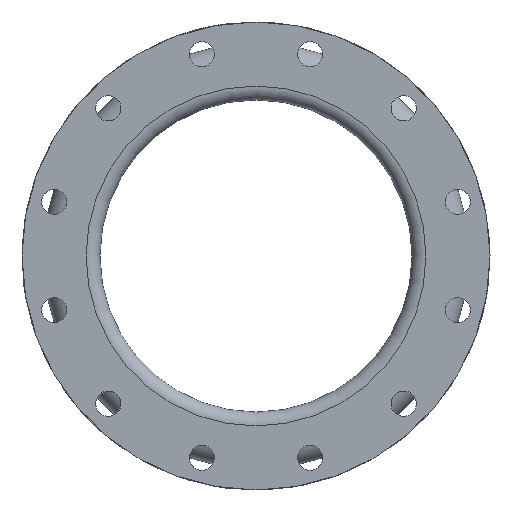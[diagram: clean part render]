
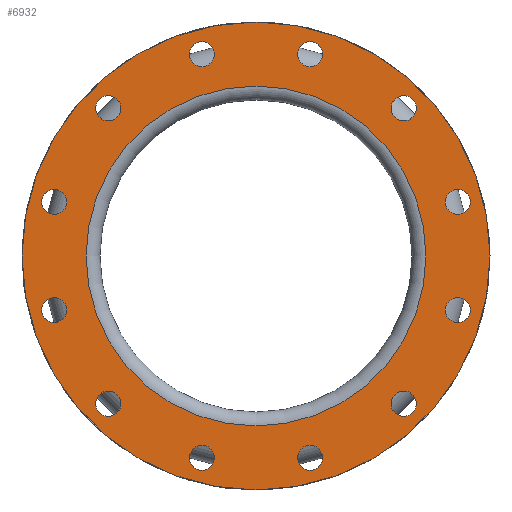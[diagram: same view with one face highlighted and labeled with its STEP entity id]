
A CAD part, left-side view. The second image highlights one B-rep face of the part: STEP entity #6932.
In plain terms, the highlighted planar face has unit normal (-1, 0, 0).
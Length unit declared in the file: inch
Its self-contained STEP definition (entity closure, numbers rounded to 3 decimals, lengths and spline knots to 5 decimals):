
#132=FACE_BOUND('',#1200,.T.);
#133=FACE_BOUND('',#1201,.T.);
#134=FACE_BOUND('',#1202,.T.);
#135=FACE_BOUND('',#1203,.T.);
#136=FACE_BOUND('',#1204,.T.);
#137=FACE_BOUND('',#1205,.T.);
#138=FACE_BOUND('',#1206,.T.);
#139=FACE_BOUND('',#1207,.T.);
#140=FACE_BOUND('',#1208,.T.);
#141=FACE_BOUND('',#1209,.T.);
#142=FACE_BOUND('',#1210,.T.);
#143=FACE_BOUND('',#1211,.T.);
#144=FACE_BOUND('',#1212,.T.);
#725=FACE_OUTER_BOUND('',#1199,.T.);
#1199=EDGE_LOOP('',(#5308));
#1200=EDGE_LOOP('',(#5309));
#1201=EDGE_LOOP('',(#5310));
#1202=EDGE_LOOP('',(#5311));
#1203=EDGE_LOOP('',(#5312));
#1204=EDGE_LOOP('',(#5313));
#1205=EDGE_LOOP('',(#5314));
#1206=EDGE_LOOP('',(#5315));
#1207=EDGE_LOOP('',(#5316));
#1208=EDGE_LOOP('',(#5317));
#1209=EDGE_LOOP('',(#5318));
#1210=EDGE_LOOP('',(#5319));
#1211=EDGE_LOOP('',(#5320));
#1212=EDGE_LOOP('',(#5321));
#2438=CIRCLE('',#7540,0.5625);
#2440=CIRCLE('',#7543,0.5625);
#2442=CIRCLE('',#7546,0.5625);
#2444=CIRCLE('',#7549,0.5625);
#2446=CIRCLE('',#7552,0.5625);
#2448=CIRCLE('',#7555,0.5625);
#2450=CIRCLE('',#7558,0.5625);
#2452=CIRCLE('',#7561,0.5625);
#2454=CIRCLE('',#7564,0.5625);
#2456=CIRCLE('',#7567,0.5625);
#2458=CIRCLE('',#7570,0.5625);
#2460=CIRCLE('',#7573,0.5625);
#2500=CIRCLE('',#7640,7.625);
#2501=CIRCLE('',#7642,10.5);
#3071=VERTEX_POINT('',#11294);
#3073=VERTEX_POINT('',#11299);
#3075=VERTEX_POINT('',#11304);
#3077=VERTEX_POINT('',#11309);
#3079=VERTEX_POINT('',#11314);
#3081=VERTEX_POINT('',#11319);
#3083=VERTEX_POINT('',#11324);
#3085=VERTEX_POINT('',#11329);
#3087=VERTEX_POINT('',#11334);
#3089=VERTEX_POINT('',#11339);
#3091=VERTEX_POINT('',#11344);
#3093=VERTEX_POINT('',#11349);
#3133=VERTEX_POINT('',#11456);
#3134=VERTEX_POINT('',#11459);
#3872=EDGE_CURVE('',#3071,#3071,#2438,.T.);
#3874=EDGE_CURVE('',#3073,#3073,#2440,.T.);
#3876=EDGE_CURVE('',#3075,#3075,#2442,.T.);
#3878=EDGE_CURVE('',#3077,#3077,#2444,.T.);
#3880=EDGE_CURVE('',#3079,#3079,#2446,.T.);
#3882=EDGE_CURVE('',#3081,#3081,#2448,.T.);
#3884=EDGE_CURVE('',#3083,#3083,#2450,.T.);
#3886=EDGE_CURVE('',#3085,#3085,#2452,.T.);
#3888=EDGE_CURVE('',#3087,#3087,#2454,.T.);
#3890=EDGE_CURVE('',#3089,#3089,#2456,.T.);
#3892=EDGE_CURVE('',#3091,#3091,#2458,.T.);
#3894=EDGE_CURVE('',#3093,#3093,#2460,.T.);
#3934=EDGE_CURVE('',#3133,#3133,#2500,.T.);
#3935=EDGE_CURVE('',#3134,#3134,#2501,.T.);
#5308=ORIENTED_EDGE('',*,*,#3935,.F.);
#5309=ORIENTED_EDGE('',*,*,#3934,.T.);
#5310=ORIENTED_EDGE('',*,*,#3872,.T.);
#5311=ORIENTED_EDGE('',*,*,#3874,.T.);
#5312=ORIENTED_EDGE('',*,*,#3876,.T.);
#5313=ORIENTED_EDGE('',*,*,#3878,.T.);
#5314=ORIENTED_EDGE('',*,*,#3880,.T.);
#5315=ORIENTED_EDGE('',*,*,#3882,.T.);
#5316=ORIENTED_EDGE('',*,*,#3884,.T.);
#5317=ORIENTED_EDGE('',*,*,#3886,.T.);
#5318=ORIENTED_EDGE('',*,*,#3888,.T.);
#5319=ORIENTED_EDGE('',*,*,#3890,.T.);
#5320=ORIENTED_EDGE('',*,*,#3892,.T.);
#5321=ORIENTED_EDGE('',*,*,#3894,.T.);
#6298=PLANE('',#7641);
#6932=ADVANCED_FACE('',(#725,#132,#133,#134,#135,#136,#137,#138,#139,#140,
#141,#142,#143,#144),#6298,.T.);
#7540=AXIS2_PLACEMENT_3D('',#11295,#9113,#9114);
#7543=AXIS2_PLACEMENT_3D('',#11300,#9119,#9120);
#7546=AXIS2_PLACEMENT_3D('',#11305,#9125,#9126);
#7549=AXIS2_PLACEMENT_3D('',#11310,#9131,#9132);
#7552=AXIS2_PLACEMENT_3D('',#11315,#9137,#9138);
#7555=AXIS2_PLACEMENT_3D('',#11320,#9143,#9144);
#7558=AXIS2_PLACEMENT_3D('',#11325,#9149,#9150);
#7561=AXIS2_PLACEMENT_3D('',#11330,#9155,#9156);
#7564=AXIS2_PLACEMENT_3D('',#11335,#9161,#9162);
#7567=AXIS2_PLACEMENT_3D('',#11340,#9167,#9168);
#7570=AXIS2_PLACEMENT_3D('',#11345,#9173,#9174);
#7573=AXIS2_PLACEMENT_3D('',#11350,#9179,#9180);
#7640=AXIS2_PLACEMENT_3D('',#11457,#9313,#9314);
#7641=AXIS2_PLACEMENT_3D('',#11458,#9315,#9316);
#7642=AXIS2_PLACEMENT_3D('',#11460,#9317,#9318);
#9113=DIRECTION('center_axis',(1.,0.,0.));
#9114=DIRECTION('ref_axis',(0.,-0.866,0.5));
#9119=DIRECTION('center_axis',(1.,0.,0.));
#9120=DIRECTION('ref_axis',(0.,-0.5,0.866));
#9125=DIRECTION('center_axis',(1.,0.,0.));
#9126=DIRECTION('ref_axis',(0.,0.,1.));
#9131=DIRECTION('center_axis',(1.,0.,0.));
#9132=DIRECTION('ref_axis',(0.,0.5,0.866));
#9137=DIRECTION('center_axis',(1.,0.,0.));
#9138=DIRECTION('ref_axis',(0.,0.866,0.5));
#9143=DIRECTION('center_axis',(1.,0.,0.));
#9144=DIRECTION('ref_axis',(0.,1.,0.));
#9149=DIRECTION('center_axis',(1.,0.,0.));
#9150=DIRECTION('ref_axis',(0.,0.866,-0.5));
#9155=DIRECTION('center_axis',(1.,0.,0.));
#9156=DIRECTION('ref_axis',(0.,0.5,-0.866));
#9161=DIRECTION('center_axis',(1.,0.,0.));
#9162=DIRECTION('ref_axis',(0.,0.,-1.));
#9167=DIRECTION('center_axis',(1.,0.,0.));
#9168=DIRECTION('ref_axis',(0.,-0.5,-0.866));
#9173=DIRECTION('center_axis',(1.,0.,0.));
#9174=DIRECTION('ref_axis',(0.,-0.866,-0.5));
#9179=DIRECTION('center_axis',(1.,0.,0.));
#9180=DIRECTION('ref_axis',(0.,-1.,0.));
#9313=DIRECTION('center_axis',(1.,0.,0.));
#9314=DIRECTION('ref_axis',(0.,0.,-1.));
#9315=DIRECTION('center_axis',(-1.,0.,0.));
#9316=DIRECTION('ref_axis',(0.,0.,1.));
#9317=DIRECTION('center_axis',(1.,0.,0.));
#9318=DIRECTION('ref_axis',(0.,0.,-1.));
#11294=CARTESIAN_POINT('',(-8.,7.11627,-6.91038));
#11295=CARTESIAN_POINT('Origin',(-8.,6.62913,-6.62913));
#11299=CARTESIAN_POINT('',(-8.,2.70768,-9.54269));
#11300=CARTESIAN_POINT('Origin',(-8.,2.42643,-9.05555));
#11304=CARTESIAN_POINT('',(-8.,-2.42643,-9.61805));
#11305=CARTESIAN_POINT('Origin',(-8.,-2.42643,-9.05555));
#11309=CARTESIAN_POINT('',(-8.,-6.91038,-7.11627));
#11310=CARTESIAN_POINT('Origin',(-8.,-6.62913,-6.62913));
#11314=CARTESIAN_POINT('',(-8.,-9.54269,-2.70768));
#11315=CARTESIAN_POINT('Origin',(-8.,-9.05555,-2.42643));
#11319=CARTESIAN_POINT('',(-8.,-9.61805,2.42643));
#11320=CARTESIAN_POINT('Origin',(-8.,-9.05555,2.42643));
#11324=CARTESIAN_POINT('',(-8.,-7.11627,6.91038));
#11325=CARTESIAN_POINT('Origin',(-8.,-6.62913,6.62913));
#11329=CARTESIAN_POINT('',(-8.,-2.70768,9.54269));
#11330=CARTESIAN_POINT('Origin',(-8.,-2.42643,9.05555));
#11334=CARTESIAN_POINT('',(-8.,2.42643,9.61805));
#11335=CARTESIAN_POINT('Origin',(-8.,2.42643,9.05555));
#11339=CARTESIAN_POINT('',(-8.,6.91038,7.11627));
#11340=CARTESIAN_POINT('Origin',(-8.,6.62913,6.62913));
#11344=CARTESIAN_POINT('',(-8.,9.54269,2.70768));
#11345=CARTESIAN_POINT('Origin',(-8.,9.05555,2.42643));
#11349=CARTESIAN_POINT('',(-8.,9.61805,-2.42643));
#11350=CARTESIAN_POINT('Origin',(-8.,9.05555,-2.42643));
#11456=CARTESIAN_POINT('',(-8.,7.625,0.));
#11457=CARTESIAN_POINT('Origin',(-8.,0.,0.));
#11458=CARTESIAN_POINT('Origin',(-8.,10.5,0.));
#11459=CARTESIAN_POINT('',(-8.,10.5,0.));
#11460=CARTESIAN_POINT('Origin',(-8.,0.,0.));
